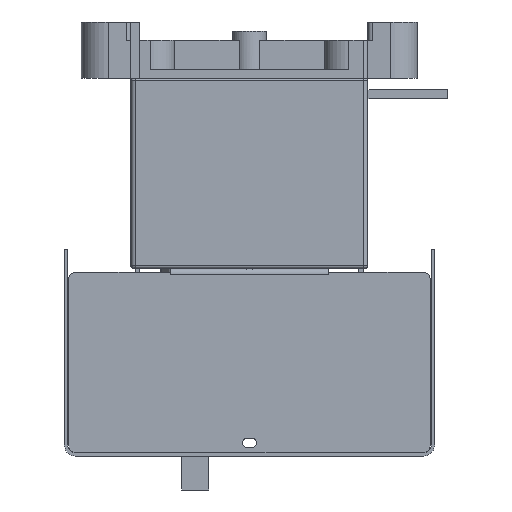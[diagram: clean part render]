
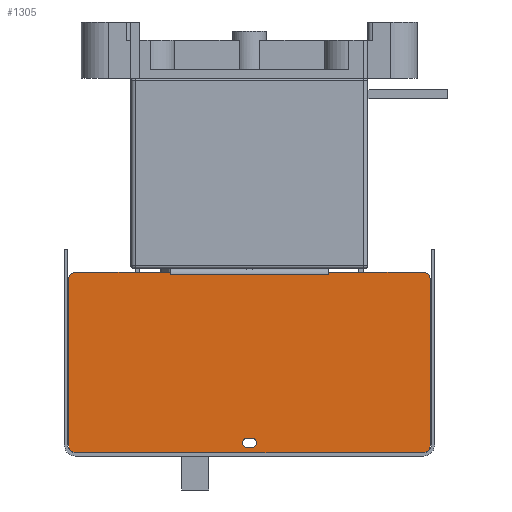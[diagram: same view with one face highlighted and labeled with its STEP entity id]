
A CAD part, left-side view. The second image highlights one B-rep face of the part: STEP entity #1305.
In plain terms, the highlighted planar face has unit normal (-1, 0, 0).
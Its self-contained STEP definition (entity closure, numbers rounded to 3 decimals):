
#170=FACE_BOUND('',#4029,.T.);
#171=FACE_BOUND('',#4030,.T.);
#1305=ADVANCED_FACE('',(#170,#171),#2113,.T.);
#2113=PLANE('',#20620);
#4029=EDGE_LOOP('',(#8687,#8688,#8689,#8690,#8691,#8692,#8693,#8694,#8695,
#8696,#8697,#8698,#8699,#8700));
#4030=EDGE_LOOP('',(#8701,#8702,#8703,#8704));
#4943=CIRCLE('',#20598,2.1);
#4945=CIRCLE('',#20602,2.1);
#4947=CIRCLE('',#20606,3.);
#4949=CIRCLE('',#20609,3.);
#4951=CIRCLE('',#20613,3.);
#4953=CIRCLE('',#20617,3.);
#8687=ORIENTED_EDGE('',*,*,#14419,.F.);
#8688=ORIENTED_EDGE('',*,*,#14420,.T.);
#8689=ORIENTED_EDGE('',*,*,#14421,.T.);
#8690=ORIENTED_EDGE('',*,*,#14422,.T.);
#8691=ORIENTED_EDGE('',*,*,#14423,.F.);
#8692=ORIENTED_EDGE('',*,*,#14411,.T.);
#8693=ORIENTED_EDGE('',*,*,#14416,.T.);
#8694=ORIENTED_EDGE('',*,*,#14399,.T.);
#8695=ORIENTED_EDGE('',*,*,#14402,.T.);
#8696=ORIENTED_EDGE('',*,*,#14377,.T.);
#8697=ORIENTED_EDGE('',*,*,#14405,.T.);
#8698=ORIENTED_EDGE('',*,*,#14408,.T.);
#8699=ORIENTED_EDGE('',*,*,#14410,.T.);
#8700=ORIENTED_EDGE('',*,*,#14385,.T.);
#8701=ORIENTED_EDGE('',*,*,#14389,.T.);
#8702=ORIENTED_EDGE('',*,*,#14393,.T.);
#8703=ORIENTED_EDGE('',*,*,#14396,.T.);
#8704=ORIENTED_EDGE('',*,*,#14418,.T.);
#11626=VERTEX_POINT('',#29135);
#11671=VERTEX_POINT('',#29232);
#11955=VERTEX_POINT('',#30323);
#11956=VERTEX_POINT('',#30325);
#11959=VERTEX_POINT('',#30332);
#11960=VERTEX_POINT('',#30334);
#11962=VERTEX_POINT('',#30340);
#11964=VERTEX_POINT('',#30346);
#11967=VERTEX_POINT('',#30353);
#11968=VERTEX_POINT('',#30355);
#11970=VERTEX_POINT('',#30364);
#11972=VERTEX_POINT('',#30370);
#11973=VERTEX_POINT('',#30377);
#11974=VERTEX_POINT('',#30378);
#11977=VERTEX_POINT('',#30392);
#11978=VERTEX_POINT('',#30394);
#11979=VERTEX_POINT('',#30396);
#11980=VERTEX_POINT('',#30398);
#14377=EDGE_CURVE('',#11626,#11671,#16745,.T.);
#14385=EDGE_CURVE('',#11956,#11955,#16752,.T.);
#14389=EDGE_CURVE('',#11960,#11959,#4943,.T.);
#14393=EDGE_CURVE('',#11959,#11962,#16758,.T.);
#14396=EDGE_CURVE('',#11962,#11964,#4945,.T.);
#14399=EDGE_CURVE('',#11968,#11967,#16762,.T.);
#14402=EDGE_CURVE('',#11967,#11626,#4947,.T.);
#14405=EDGE_CURVE('',#11671,#11970,#4949,.T.);
#14408=EDGE_CURVE('',#11970,#11972,#16767,.T.);
#14410=EDGE_CURVE('',#11972,#11956,#4951,.T.);
#14411=EDGE_CURVE('',#11973,#11974,#16768,.T.);
#14416=EDGE_CURVE('',#11974,#11968,#4953,.T.);
#14418=EDGE_CURVE('',#11964,#11960,#16773,.T.);
#14419=EDGE_CURVE('',#11977,#11955,#16774,.T.);
#14420=EDGE_CURVE('',#11977,#11978,#16775,.T.);
#14421=EDGE_CURVE('',#11978,#11979,#16776,.T.);
#14422=EDGE_CURVE('',#11979,#11980,#16777,.T.);
#14423=EDGE_CURVE('',#11973,#11980,#16778,.T.);
#16745=LINE('',#30306,#18809);
#16752=LINE('',#30324,#18816);
#16758=LINE('',#30341,#18822);
#16762=LINE('',#30354,#18826);
#16767=LINE('',#30371,#18831);
#16768=LINE('',#30376,#18832);
#16773=LINE('',#30389,#18837);
#16774=LINE('',#30391,#18838);
#16775=LINE('',#30393,#18839);
#16776=LINE('',#30395,#18840);
#16777=LINE('',#30397,#18841);
#16778=LINE('',#30399,#18842);
#18809=VECTOR('',#24655,1.);
#18816=VECTOR('',#24668,1.);
#18822=VECTOR('',#24682,1.);
#18826=VECTOR('',#24694,1.);
#18831=VECTOR('',#24713,1.);
#18832=VECTOR('',#24722,1.);
#18837=VECTOR('',#24735,1.);
#18838=VECTOR('',#24738,1.);
#18839=VECTOR('',#24739,1.);
#18840=VECTOR('',#24740,1.);
#18841=VECTOR('',#24741,1.);
#18842=VECTOR('',#24742,1.);
#20598=AXIS2_PLACEMENT_3D('',#30333,#24675,#24676);
#20602=AXIS2_PLACEMENT_3D('',#30347,#24688,#24689);
#20606=AXIS2_PLACEMENT_3D('',#30359,#24700,#24701);
#20609=AXIS2_PLACEMENT_3D('',#30365,#24707,#24708);
#20613=AXIS2_PLACEMENT_3D('',#30374,#24718,#24719);
#20617=AXIS2_PLACEMENT_3D('',#30386,#24730,#24731);
#20620=AXIS2_PLACEMENT_3D('',#30400,#24743,#24744);
#24655=DIRECTION('',(0.,-1.,0.));
#24668=DIRECTION('',(0.,1.,0.));
#24675=DIRECTION('',(1.,0.,0.));
#24676=DIRECTION('',(0.,1.,0.));
#24682=DIRECTION('',(0.,-1.,0.));
#24688=DIRECTION('',(1.,0.,0.));
#24689=DIRECTION('',(0.,1.,0.));
#24694=DIRECTION('',(0.,0.,-1.));
#24700=DIRECTION('',(-1.,0.,0.));
#24701=DIRECTION('',(0.,1.,0.));
#24707=DIRECTION('',(-1.,0.,0.));
#24708=DIRECTION('',(0.,1.,0.));
#24713=DIRECTION('',(0.,0.,1.));
#24718=DIRECTION('',(-1.,0.,0.));
#24719=DIRECTION('',(0.,1.,0.));
#24722=DIRECTION('',(0.,1.,0.));
#24730=DIRECTION('',(-1.,0.,0.));
#24731=DIRECTION('',(0.,1.,0.));
#24735=DIRECTION('',(0.,1.,0.));
#24738=DIRECTION('',(0.,0.,1.));
#24739=DIRECTION('',(0.,1.,0.));
#24740=DIRECTION('',(0.,1.,0.));
#24741=DIRECTION('',(0.,1.,0.));
#24742=DIRECTION('',(0.,0.,-1.));
#24743=DIRECTION('',(-1.,0.,0.));
#24744=DIRECTION('',(0.,-1.,0.));
#29135=CARTESIAN_POINT('',(-189.3,77.,-165.8));
#29232=CARTESIAN_POINT('',(-189.3,-77.,-165.8));
#30306=CARTESIAN_POINT('',(-189.3,77.,-165.8));
#30323=CARTESIAN_POINT('',(-189.3,-35.002,-85.8));
#30324=CARTESIAN_POINT('',(-189.3,-77.,-85.8));
#30325=CARTESIAN_POINT('',(-189.3,-77.,-85.8));
#30332=CARTESIAN_POINT('',(-189.3,1.,-159.3));
#30333=CARTESIAN_POINT('',(-189.3,1.,-161.4));
#30334=CARTESIAN_POINT('',(-189.3,1.,-163.5));
#30340=CARTESIAN_POINT('',(-189.3,-1.,-159.3));
#30341=CARTESIAN_POINT('',(-189.3,1.,-159.3));
#30346=CARTESIAN_POINT('',(-189.3,-1.,-163.5));
#30347=CARTESIAN_POINT('',(-189.3,-1.,-161.4));
#30353=CARTESIAN_POINT('',(-189.3,80.,-162.8));
#30354=CARTESIAN_POINT('',(-189.3,80.,-88.8));
#30355=CARTESIAN_POINT('',(-189.3,80.,-88.8));
#30359=CARTESIAN_POINT('',(-189.3,77.,-162.8));
#30364=CARTESIAN_POINT('',(-189.3,-80.,-162.8));
#30365=CARTESIAN_POINT('',(-189.3,-77.,-162.8));
#30370=CARTESIAN_POINT('',(-189.3,-80.,-88.8));
#30371=CARTESIAN_POINT('',(-189.3,-80.,-162.8));
#30374=CARTESIAN_POINT('',(-189.3,-77.,-88.8));
#30376=CARTESIAN_POINT('',(-189.3,-77.,-85.8));
#30377=CARTESIAN_POINT('',(-189.3,35.002,-85.8));
#30378=CARTESIAN_POINT('',(-189.3,77.,-85.8));
#30386=CARTESIAN_POINT('',(-189.3,77.,-88.8));
#30389=CARTESIAN_POINT('',(-189.3,-1.,-163.5));
#30391=CARTESIAN_POINT('',(-189.3,-35.002,-162.8));
#30392=CARTESIAN_POINT('',(-189.3,-35.002,-86.8));
#30393=CARTESIAN_POINT('',(-189.3,77.,-86.8));
#30394=CARTESIAN_POINT('',(-189.3,-35.,-86.8));
#30395=CARTESIAN_POINT('',(-189.3,50.5,-86.8));
#30396=CARTESIAN_POINT('',(-189.3,35.,-86.8));
#30397=CARTESIAN_POINT('',(-189.3,77.,-86.8));
#30398=CARTESIAN_POINT('',(-189.3,35.002,-86.8));
#30399=CARTESIAN_POINT('',(-189.3,35.002,-162.8));
#30400=CARTESIAN_POINT('',(-189.3,77.,-162.8));
